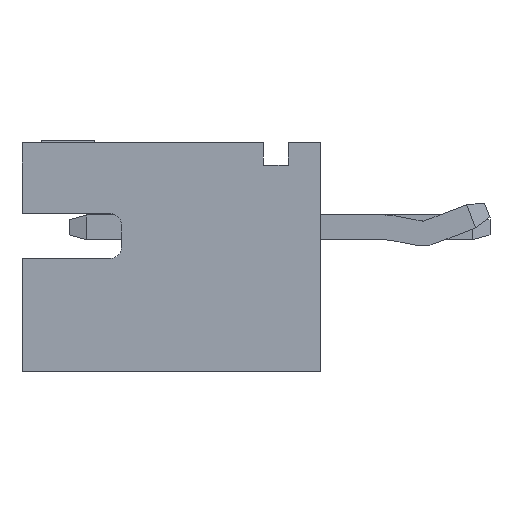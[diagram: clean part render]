
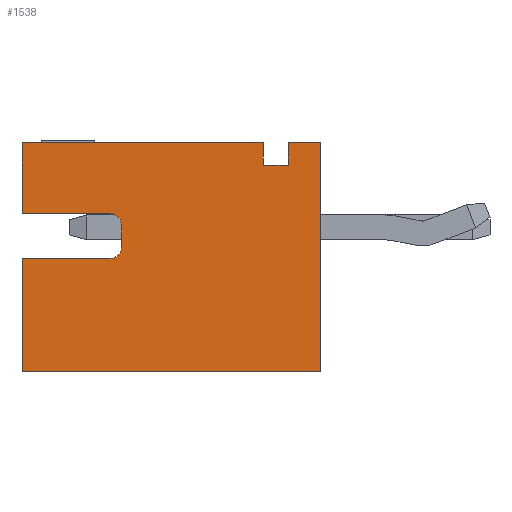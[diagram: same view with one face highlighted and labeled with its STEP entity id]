
A CAD part, left-side view. The second image highlights one B-rep face of the part: STEP entity #1538.
In plain terms, the highlighted planar face has unit normal (-1, 0, 0).
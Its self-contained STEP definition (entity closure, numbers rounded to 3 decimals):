
#124 = CARTESIAN_POINT ( 'NONE',  ( -4.95, 4., -0.4 ) ) ;
#182 = VERTEX_POINT ( 'NONE', #3315 ) ;
#200 = EDGE_CURVE ( 'NONE', #2897, #3286, #853, .T. ) ;
#290 = VECTOR ( 'NONE', #4004, 1000. ) ;
#294 = ORIENTED_EDGE ( 'NONE', *, *, #4536, .T. ) ;
#297 = DIRECTION ( 'NONE',  ( 0., 1., 0. ) ) ;
#306 = CARTESIAN_POINT ( 'NONE',  ( -4.95, 0., -2.9 ) ) ;
#324 = CARTESIAN_POINT ( 'NONE',  ( -4.95, 1.15, 1.7 ) ) ;
#365 = CARTESIAN_POINT ( 'NONE',  ( -4.95, 6., 0.275 ) ) ;
#459 = ORIENTED_EDGE ( 'NONE', *, *, #200, .T. ) ;
#578 = CARTESIAN_POINT ( 'NONE',  ( -4.95, 6., -2.9 ) ) ;
#616 = ORIENTED_EDGE ( 'NONE', *, *, #3712, .F. ) ;
#654 = LINE ( 'NONE', #1719, #4061 ) ;
#668 = ORIENTED_EDGE ( 'NONE', *, *, #1915, .T. ) ;
#678 = VERTEX_POINT ( 'NONE', #3237 ) ;
#757 = PLANE ( 'NONE',  #3906 ) ;
#812 = VERTEX_POINT ( 'NONE', #4478 ) ;
#850 = VERTEX_POINT ( 'NONE', #3804 ) ;
#853 = CIRCLE ( 'NONE', #3580, 0.225 ) ;
#887 = VERTEX_POINT ( 'NONE', #3113 ) ;
#907 = CARTESIAN_POINT ( 'NONE',  ( -4.95, 0.65, 1.7 ) ) ;
#929 = CIRCLE ( 'NONE', #2487, 0.225 ) ;
#947 = ORIENTED_EDGE ( 'NONE', *, *, #1031, .F. ) ;
#956 = CARTESIAN_POINT ( 'NONE',  ( -4.95, 4., 0.05 ) ) ;
#1025 = CARTESIAN_POINT ( 'NONE',  ( -4.95, 6., -0.625 ) ) ;
#1027 = ORIENTED_EDGE ( 'NONE', *, *, #1317, .F. ) ;
#1031 = EDGE_CURVE ( 'NONE', #850, #678, #1385, .T. ) ;
#1146 = DIRECTION ( 'NONE',  ( 0., -1., 0. ) ) ;
#1154 = ORIENTED_EDGE ( 'NONE', *, *, #3958, .T. ) ;
#1163 = DIRECTION ( 'NONE',  ( 0., -1., 0. ) ) ;
#1231 = LINE ( 'NONE', #4220, #1722 ) ;
#1232 = VERTEX_POINT ( 'NONE', #3776 ) ;
#1317 = EDGE_CURVE ( 'NONE', #1232, #887, #1231, .T. ) ;
#1385 = LINE ( 'NONE', #3625, #290 ) ;
#1538 = ADVANCED_FACE ( 'NONE', ( #4110 ), #757, .T. ) ;
#1555 = DIRECTION ( 'NONE',  ( 1., 0., 0. ) ) ;
#1577 = DIRECTION ( 'NONE',  ( 0., 0., 1. ) ) ;
#1592 = VERTEX_POINT ( 'NONE', #4239 ) ;
#1607 = ORIENTED_EDGE ( 'NONE', *, *, #3508, .T. ) ;
#1670 = LINE ( 'NONE', #907, #2386 ) ;
#1719 = CARTESIAN_POINT ( 'NONE',  ( -4.95, 0., -2.9 ) ) ;
#1722 = VECTOR ( 'NONE', #2683, 1000. ) ;
#1736 = ORIENTED_EDGE ( 'NONE', *, *, #2530, .F. ) ;
#1742 = DIRECTION ( 'NONE',  ( 0., -1., 0. ) ) ;
#1882 = EDGE_CURVE ( 'NONE', #850, #4492, #3068, .T. ) ;
#1915 = EDGE_CURVE ( 'NONE', #4492, #2922, #929, .T. ) ;
#1972 = CARTESIAN_POINT ( 'NONE',  ( -4.95, 4., 0.05 ) ) ;
#2015 = LINE ( 'NONE', #3509, #4859 ) ;
#2023 = DIRECTION ( 'NONE',  ( 0., 0., -1. ) ) ;
#2037 = CARTESIAN_POINT ( 'NONE',  ( -4.95, 6., -0.625 ) ) ;
#2058 = CARTESIAN_POINT ( 'NONE',  ( -4.95, 0., -2.9 ) ) ;
#2096 = EDGE_CURVE ( 'NONE', #182, #4316, #2015, .T. ) ;
#2234 = VECTOR ( 'NONE', #297, 1000. ) ;
#2242 = DIRECTION ( 'NONE',  ( -1., 0., 0. ) ) ;
#2386 = VECTOR ( 'NONE', #4187, 1000. ) ;
#2388 = LINE ( 'NONE', #1972, #2940 ) ;
#2487 = AXIS2_PLACEMENT_3D ( 'NONE', #2645, #1555, #3048 ) ;
#2491 = EDGE_CURVE ( 'NONE', #1592, #887, #4270, .T. ) ;
#2501 = ORIENTED_EDGE ( 'NONE', *, *, #2571, .T. ) ;
#2527 = CARTESIAN_POINT ( 'NONE',  ( -4.95, 1.15, 1.25 ) ) ;
#2530 = EDGE_CURVE ( 'NONE', #2536, #4322, #3274, .T. ) ;
#2536 = VERTEX_POINT ( 'NONE', #578 ) ;
#2571 = EDGE_CURVE ( 'NONE', #2536, #1592, #654, .T. ) ;
#2645 = CARTESIAN_POINT ( 'NONE',  ( -4.95, 4.225, 0.05 ) ) ;
#2678 = CARTESIAN_POINT ( 'NONE',  ( -4.95, 4.225, -0.4 ) ) ;
#2683 = DIRECTION ( 'NONE',  ( 0., -1., 0. ) ) ;
#2809 = DIRECTION ( 'NONE',  ( 0., 0., 1. ) ) ;
#2863 = CARTESIAN_POINT ( 'NONE',  ( -4.95, 0., 1.7 ) ) ;
#2897 = VERTEX_POINT ( 'NONE', #124 ) ;
#2922 = VERTEX_POINT ( 'NONE', #956 ) ;
#2940 = VECTOR ( 'NONE', #2023, 1000. ) ;
#3020 = LINE ( 'NONE', #2037, #3788 ) ;
#3033 = DIRECTION ( 'NONE',  ( 0., 1., 0. ) ) ;
#3048 = DIRECTION ( 'NONE',  ( 0., 1., 0. ) ) ;
#3068 = LINE ( 'NONE', #365, #3820 ) ;
#3113 = CARTESIAN_POINT ( 'NONE',  ( -4.95, 0., 1.7 ) ) ;
#3178 = EDGE_CURVE ( 'NONE', #2922, #2897, #2388, .T. ) ;
#3237 = CARTESIAN_POINT ( 'NONE',  ( -4.95, 6., 1.7 ) ) ;
#3274 = LINE ( 'NONE', #4417, #3909 ) ;
#3286 = VERTEX_POINT ( 'NONE', #3964 ) ;
#3307 = VECTOR ( 'NONE', #1742, 1000. ) ;
#3315 = CARTESIAN_POINT ( 'NONE',  ( -4.95, 1.15, 1.25 ) ) ;
#3507 = VECTOR ( 'NONE', #1577, 1000. ) ;
#3508 = EDGE_CURVE ( 'NONE', #3286, #4322, #3020, .T. ) ;
#3509 = CARTESIAN_POINT ( 'NONE',  ( -4.95, 1.15, 1.7 ) ) ;
#3580 = AXIS2_PLACEMENT_3D ( 'NONE', #2678, #4519, #3033 ) ;
#3616 = EDGE_LOOP ( 'NONE', ( #3707, #616, #947, #4185, #668, #4777, #459, #1607, #1736, #2501, #3894, #1027, #1154, #294 ) ) ;
#3625 = CARTESIAN_POINT ( 'NONE',  ( -4.95, 6., -2.9 ) ) ;
#3707 = ORIENTED_EDGE ( 'NONE', *, *, #2096, .T. ) ;
#3712 = EDGE_CURVE ( 'NONE', #678, #4316, #4397, .T. ) ;
#3776 = CARTESIAN_POINT ( 'NONE',  ( -4.95, 0.65, 1.7 ) ) ;
#3788 = VECTOR ( 'NONE', #4320, 1000. ) ;
#3804 = CARTESIAN_POINT ( 'NONE',  ( -4.95, 6., 0.275 ) ) ;
#3820 = VECTOR ( 'NONE', #1163, 1000. ) ;
#3894 = ORIENTED_EDGE ( 'NONE', *, *, #2491, .T. ) ;
#3906 = AXIS2_PLACEMENT_3D ( 'NONE', #306, #2242, #1146 ) ;
#3909 = VECTOR ( 'NONE', #2809, 1000. ) ;
#3958 = EDGE_CURVE ( 'NONE', #1232, #812, #1670, .T. ) ;
#3964 = CARTESIAN_POINT ( 'NONE',  ( -4.95, 4.225, -0.625 ) ) ;
#4004 = DIRECTION ( 'NONE',  ( 0., 0., 1. ) ) ;
#4061 = VECTOR ( 'NONE', #4319, 1000. ) ;
#4110 = FACE_OUTER_BOUND ( 'NONE', #3616, .T. ) ;
#4185 = ORIENTED_EDGE ( 'NONE', *, *, #1882, .T. ) ;
#4187 = DIRECTION ( 'NONE',  ( 0., 0., -1. ) ) ;
#4220 = CARTESIAN_POINT ( 'NONE',  ( -4.95, 0., 1.7 ) ) ;
#4239 = CARTESIAN_POINT ( 'NONE',  ( -4.95, 0., -2.9 ) ) ;
#4270 = LINE ( 'NONE', #2058, #3507 ) ;
#4316 = VERTEX_POINT ( 'NONE', #324 ) ;
#4319 = DIRECTION ( 'NONE',  ( 0., -1., 0. ) ) ;
#4320 = DIRECTION ( 'NONE',  ( 0., 1., 0. ) ) ;
#4322 = VERTEX_POINT ( 'NONE', #1025 ) ;
#4397 = LINE ( 'NONE', #2863, #3307 ) ;
#4407 = LINE ( 'NONE', #2527, #2234 ) ;
#4417 = CARTESIAN_POINT ( 'NONE',  ( -4.95, 6., -2.9 ) ) ;
#4478 = CARTESIAN_POINT ( 'NONE',  ( -4.95, 0.65, 1.25 ) ) ;
#4492 = VERTEX_POINT ( 'NONE', #4857 ) ;
#4519 = DIRECTION ( 'NONE',  ( 1., 0., 0. ) ) ;
#4536 = EDGE_CURVE ( 'NONE', #812, #182, #4407, .T. ) ;
#4659 = DIRECTION ( 'NONE',  ( 0., 0., 1. ) ) ;
#4777 = ORIENTED_EDGE ( 'NONE', *, *, #3178, .T. ) ;
#4857 = CARTESIAN_POINT ( 'NONE',  ( -4.95, 4.225, 0.275 ) ) ;
#4859 = VECTOR ( 'NONE', #4659, 1000. ) ;
